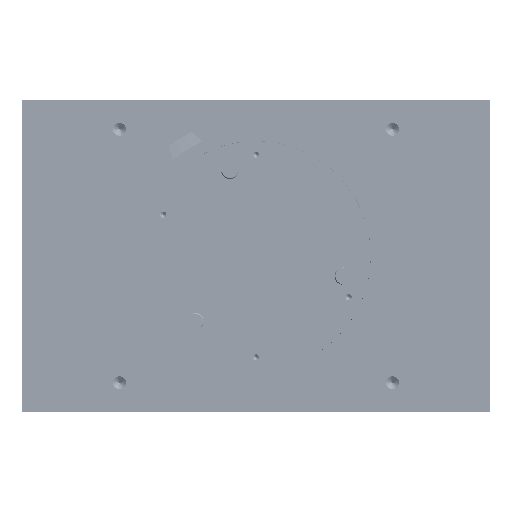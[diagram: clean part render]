
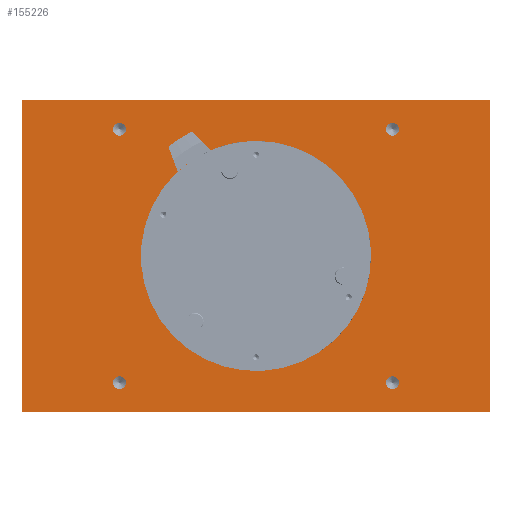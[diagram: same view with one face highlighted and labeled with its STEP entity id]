
A CAD part, left-side view. The second image highlights one B-rep face of the part: STEP entity #155226.
In plain terms, the highlighted planar face has unit normal (-1, 0, 0).
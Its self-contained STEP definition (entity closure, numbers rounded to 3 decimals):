
#3988 = DIRECTION ( 'NONE',  ( -1., 0., 0. ) ) ;
#4523 = EDGE_LOOP ( 'NONE', ( #772501 ) ) ;
#27205 = AXIS2_PLACEMENT_3D ( 'NONE', #741141, #115697, #532596 ) ;
#29349 = EDGE_CURVE ( 'NONE', #821001, #821001, #270819, .T. ) ;
#29867 = DIRECTION ( 'NONE',  ( 0., 0., 1. ) ) ;
#32744 = VECTOR ( 'NONE', #351778, 1000. ) ;
#38794 = DIRECTION ( 'NONE',  ( -1., 0., 0. ) ) ;
#38963 = VERTEX_POINT ( 'NONE', #373376 ) ;
#43293 = PLANE ( 'NONE',  #27205 ) ;
#51421 = FACE_BOUND ( 'NONE', #617668, .T. ) ;
#53829 = ORIENTED_EDGE ( 'NONE', *, *, #29349, .F. ) ;
#73803 = EDGE_CURVE ( 'NONE', #704489, #392306, #893066, .T. ) ;
#79559 = EDGE_CURVE ( 'NONE', #218409, #744143, #634639, .T. ) ;
#81931 = CARTESIAN_POINT ( 'NONE',  ( 0., -60., 40. ) ) ;
#86638 = CARTESIAN_POINT ( 'NONE',  ( 0., 60., 40. ) ) ;
#98821 = CIRCLE ( 'NONE', #614623, 1.65 ) ;
#115697 = DIRECTION ( 'NONE',  ( 1., 0., 0. ) ) ;
#116358 = FACE_BOUND ( 'NONE', #589315, .T. ) ;
#118269 = CARTESIAN_POINT ( 'NONE',  ( 0., 60., -40. ) ) ;
#133344 = CARTESIAN_POINT ( 'NONE',  ( 0., 35., -30.85 ) ) ;
#147005 = CARTESIAN_POINT ( 'NONE',  ( 0., -60., 40. ) ) ;
#155226 = ADVANCED_FACE ( 'NONE', ( #116358, #321950, #505698, #51421, #646092, #711269 ), #43293, .F. ) ;
#172040 = CARTESIAN_POINT ( 'NONE',  ( 0., 0., 27.8 ) ) ;
#209493 = DIRECTION ( 'NONE',  ( 0., 0., 1. ) ) ;
#218409 = VERTEX_POINT ( 'NONE', #147005 ) ;
#218859 = ORIENTED_EDGE ( 'NONE', *, *, #73803, .F. ) ;
#223241 = CARTESIAN_POINT ( 'NONE',  ( 0., -60., -40. ) ) ;
#230895 = DIRECTION ( 'NONE',  ( 0., 0., 1. ) ) ;
#243438 = EDGE_CURVE ( 'NONE', #604187, #604187, #823195, .T. ) ;
#253237 = CARTESIAN_POINT ( 'NONE',  ( 0., 60., 40. ) ) ;
#268590 = CARTESIAN_POINT ( 'NONE',  ( 0., -35., -32.5 ) ) ;
#270819 = CIRCLE ( 'NONE', #688767, 1.65 ) ;
#279078 = CARTESIAN_POINT ( 'NONE',  ( 0., -35., 32.5 ) ) ;
#279309 = VERTEX_POINT ( 'NONE', #809219 ) ;
#306359 = CARTESIAN_POINT ( 'NONE',  ( 0., 35., 32.5 ) ) ;
#309595 = VECTOR ( 'NONE', #562409, 1000. ) ;
#321950 = FACE_BOUND ( 'NONE', #742444, .T. ) ;
#351778 = DIRECTION ( 'NONE',  ( 0., 1., 0. ) ) ;
#369174 = EDGE_CURVE ( 'NONE', #279309, #279309, #847826, .T. ) ;
#373376 = CARTESIAN_POINT ( 'NONE',  ( 0., -35., 34.15 ) ) ;
#378284 = DIRECTION ( 'NONE',  ( -1., 0., 0. ) ) ;
#392306 = VERTEX_POINT ( 'NONE', #253237 ) ;
#407421 = DIRECTION ( 'NONE',  ( 0., 0., 1. ) ) ;
#408192 = EDGE_CURVE ( 'NONE', #392306, #218409, #689157, .T. ) ;
#426176 = ORIENTED_EDGE ( 'NONE', *, *, #79559, .F. ) ;
#436393 = DIRECTION ( 'NONE',  ( -1., 0., 0. ) ) ;
#437050 = CARTESIAN_POINT ( 'NONE',  ( 0., 35., 34.15 ) ) ;
#457125 = DIRECTION ( 'NONE',  ( 0., 0., 1. ) ) ;
#458038 = ORIENTED_EDGE ( 'NONE', *, *, #408192, .F. ) ;
#459787 = DIRECTION ( 'NONE',  ( 0., 0., 1. ) ) ;
#505698 = FACE_BOUND ( 'NONE', #850914, .T. ) ;
#532596 = DIRECTION ( 'NONE',  ( 0., 0., -1. ) ) ;
#537411 = DIRECTION ( 'NONE',  ( -1., 0., 0. ) ) ;
#562409 = DIRECTION ( 'NONE',  ( 0., 0., -1. ) ) ;
#589315 = EDGE_LOOP ( 'NONE', ( #740887 ) ) ;
#601839 = CARTESIAN_POINT ( 'NONE',  ( 0., 60., 40. ) ) ;
#604187 = VERTEX_POINT ( 'NONE', #172040 ) ;
#607794 = EDGE_CURVE ( 'NONE', #744143, #704489, #821799, .T. ) ;
#614623 = AXIS2_PLACEMENT_3D ( 'NONE', #306359, #436393, #230895 ) ;
#617668 = EDGE_LOOP ( 'NONE', ( #53829 ) ) ;
#629702 = CARTESIAN_POINT ( 'NONE',  ( 0., 60., -40. ) ) ;
#634639 = LINE ( 'NONE', #81931, #309595 ) ;
#646092 = FACE_BOUND ( 'NONE', #4523, .T. ) ;
#646701 = ORIENTED_EDGE ( 'NONE', *, *, #825491, .F. ) ;
#649840 = ORIENTED_EDGE ( 'NONE', *, *, #369174, .F. ) ;
#662182 = CARTESIAN_POINT ( 'NONE',  ( 0., 0., 0. ) ) ;
#667249 = AXIS2_PLACEMENT_3D ( 'NONE', #662182, #378284, #459787 ) ;
#677469 = ORIENTED_EDGE ( 'NONE', *, *, #607794, .F. ) ;
#688767 = AXIS2_PLACEMENT_3D ( 'NONE', #727771, #38794, #29867 ) ;
#689157 = LINE ( 'NONE', #86638, #819171 ) ;
#692202 = EDGE_LOOP ( 'NONE', ( #458038, #218859, #677469, #426176 ) ) ;
#704489 = VERTEX_POINT ( 'NONE', #118269 ) ;
#711269 = FACE_OUTER_BOUND ( 'NONE', #692202, .T. ) ;
#718280 = CIRCLE ( 'NONE', #884826, 1.65 ) ;
#727771 = CARTESIAN_POINT ( 'NONE',  ( 0., 35., -32.5 ) ) ;
#740887 = ORIENTED_EDGE ( 'NONE', *, *, #829142, .F. ) ;
#741141 = CARTESIAN_POINT ( 'NONE',  ( 0., 0., 0. ) ) ;
#742444 = EDGE_LOOP ( 'NONE', ( #646701 ) ) ;
#744143 = VERTEX_POINT ( 'NONE', #223241 ) ;
#744849 = AXIS2_PLACEMENT_3D ( 'NONE', #268590, #537411, #407421 ) ;
#752560 = VERTEX_POINT ( 'NONE', #437050 ) ;
#772501 = ORIENTED_EDGE ( 'NONE', *, *, #243438, .F. ) ;
#774371 = VECTOR ( 'NONE', #457125, 1000. ) ;
#775545 = DIRECTION ( 'NONE',  ( 0., -1., 0. ) ) ;
#809219 = CARTESIAN_POINT ( 'NONE',  ( 0., -35., -30.85 ) ) ;
#819171 = VECTOR ( 'NONE', #775545, 1000. ) ;
#821001 = VERTEX_POINT ( 'NONE', #133344 ) ;
#821799 = LINE ( 'NONE', #629702, #32744 ) ;
#823195 = CIRCLE ( 'NONE', #667249, 27.8 ) ;
#825491 = EDGE_CURVE ( 'NONE', #752560, #752560, #98821, .T. ) ;
#829142 = EDGE_CURVE ( 'NONE', #38963, #38963, #718280, .T. ) ;
#847826 = CIRCLE ( 'NONE', #744849, 1.65 ) ;
#850914 = EDGE_LOOP ( 'NONE', ( #649840 ) ) ;
#884826 = AXIS2_PLACEMENT_3D ( 'NONE', #279078, #3988, #209493 ) ;
#893066 = LINE ( 'NONE', #601839, #774371 ) ;
